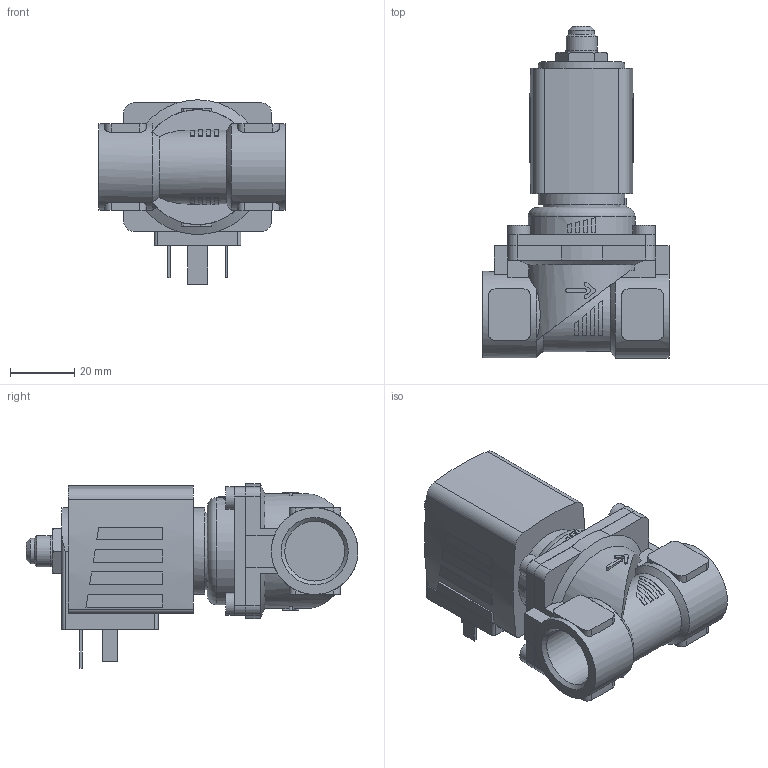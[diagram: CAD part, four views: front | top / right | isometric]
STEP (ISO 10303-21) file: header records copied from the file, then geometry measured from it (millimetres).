
FILE_DESCRIPTION(/* description */ ('STEP AP214'),/* implementation_level */ '2;1');
FILE_NAME(/* name */ '6281-327240-2_2-Way_Solenoid_Valve__Servo-assisted__General_Purpose',/* time_stamp */ '2024-05-18T23:35:49+02:00',/* author */ ('License CC BY-ND 4.0'),/* organization */ ('CADENAS'),/* preprocessor_version */ 'ST-DEVELOPER v19.3',/* originating_system */ 'PARTsolutions',/* authorisation */ ' ');
FILE_SCHEMA (('AUTOMOTIVE_DESIGN {1 0 10303 214 3 1 1}'));
Length unit declared in the file: millimetre
Products named in the file (4): 6281-327240-2/2-Way Solenoid Valve, Servo-assisted, General Purpose; 5281ev130MS2/2-Wege-Magnetventil mit Servomembran-Deckel  MX62 ; 6213-13G1/2MS-Gehaeuse-kurz; AC10ex-5NA38-Gewinde-Coil
Assembly tree (3 placements, depth 2):
  6281-327240-2/2-Way Solenoid Valve, Servo-assisted, General Purpose
    5281ev130MS2/2-Wege-Magnetventil mit Servomembran-Deckel  MX62 
    6213-13G1/2MS-Gehaeuse-kurz
    AC10ex-5NA38-Gewinde-Coil
Bounding box: 58 x 103.5 x 57.5 mm (x, y, z)
Volume: 109339.9 mm3; surface area: 27601.6 mm2
Topology: 3 solids, 3 shells, 321 faces, 798 edges, 521 vertices
Faces by surface type: plane 220, cylinder 83, cone 17, torus 1
Full cylindrical faces by diameter (mm): 2.013 x1, 2.7 x1, 7 x4, 8 x1, 9.73 x1, 9.74 x1, 18.631 x2, 27 x2, 33.4 x1
Entity records: 10618 total; most frequent: CARTESIAN_POINT 1848, DIRECTION 1600, ORIENTED_EDGE 1532, EDGE_CURVE 766, AXIS2_PLACEMENT_3D 575, VERTEX_POINT 510, LINE 450, VECTOR 450
